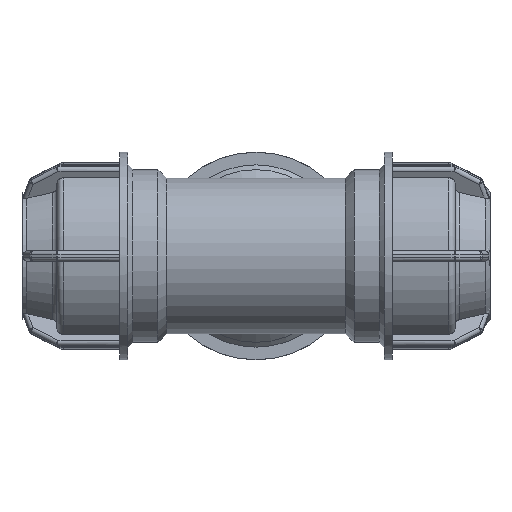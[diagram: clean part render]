
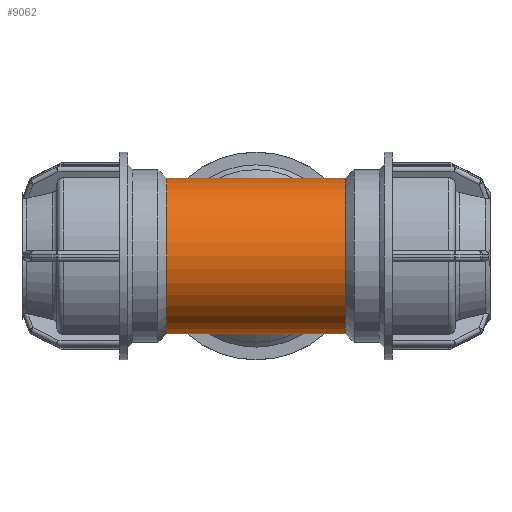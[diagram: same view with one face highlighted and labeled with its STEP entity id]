
A CAD part, front view. The second image highlights one B-rep face of the part: STEP entity #9062.
In plain terms, the highlighted cylindrical face has radius 39.69 mm (diameter 79.38 mm), a full revolution.
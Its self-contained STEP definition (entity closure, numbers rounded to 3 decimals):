
#15=ELLIPSE('',#9987,56.13,39.69);
#16=ELLIPSE('',#9988,56.13,39.69);
#1920=CYLINDRICAL_SURFACE('',#10008,39.69);
#2009=FACE_BOUND('',#3058,.T.);
#2010=FACE_BOUND('',#3059,.T.);
#2426=FACE_OUTER_BOUND('',#3057,.T.);
#3057=EDGE_LOOP('',(#7731));
#3058=EDGE_LOOP('',(#7732));
#3059=EDGE_LOOP('',(#7733,#7734));
#3271=CIRCLE('',#9264,39.69);
#3277=CIRCLE('',#9274,39.69);
#3775=VERTEX_POINT('',#13134);
#3781=VERTEX_POINT('',#13150);
#4300=VERTEX_POINT('',#16114);
#4301=VERTEX_POINT('',#16115);
#4571=EDGE_CURVE('',#3775,#3775,#3271,.T.);
#4577=EDGE_CURVE('',#3781,#3781,#3277,.T.);
#5467=EDGE_CURVE('',#4300,#4301,#15,.T.);
#5468=EDGE_CURVE('',#4300,#4301,#16,.T.);
#7731=ORIENTED_EDGE('',*,*,#4577,.F.);
#7732=ORIENTED_EDGE('',*,*,#4571,.F.);
#7733=ORIENTED_EDGE('',*,*,#5468,.T.);
#7734=ORIENTED_EDGE('',*,*,#5467,.F.);
#9062=ADVANCED_FACE('',(#2426,#2009,#2010),#1920,.T.);
#9264=AXIS2_PLACEMENT_3D('',#13135,#10376,#10377);
#9274=AXIS2_PLACEMENT_3D('',#13151,#10396,#10397);
#9987=AXIS2_PLACEMENT_3D('',#16116,#12182,#12183);
#9988=AXIS2_PLACEMENT_3D('',#16117,#12184,#12185);
#10008=AXIS2_PLACEMENT_3D('',#16145,#12224,#12225);
#10376=DIRECTION('center_axis',(1.,0.,0.));
#10377=DIRECTION('ref_axis',(0.,0.,-1.));
#10396=DIRECTION('center_axis',(-1.,0.,0.));
#10397=DIRECTION('ref_axis',(0.,0.,-1.));
#12182=DIRECTION('center_axis',(0.707,0.707,0.));
#12183=DIRECTION('ref_axis',(0.707,-0.707,0.));
#12184=DIRECTION('center_axis',(0.707,-0.707,0.));
#12185=DIRECTION('ref_axis',(-0.707,-0.707,0.));
#12224=DIRECTION('center_axis',(1.,0.,0.));
#12225=DIRECTION('ref_axis',(0.,1.,0.));
#13134=CARTESIAN_POINT('',(45.7,39.69,0.));
#13135=CARTESIAN_POINT('Origin',(45.7,0.,0.));
#13150=CARTESIAN_POINT('',(-45.7,-39.69,0.));
#13151=CARTESIAN_POINT('Origin',(-45.7,0.,0.));
#16114=CARTESIAN_POINT('',(0.,0.,
-39.69));
#16115=CARTESIAN_POINT('',(0.,0.,
39.69));
#16116=CARTESIAN_POINT('Origin',(0.,0.,0.));
#16117=CARTESIAN_POINT('Origin',(0.,0.,
0.));
#16145=CARTESIAN_POINT('Origin',(22.85,0.,0.));
